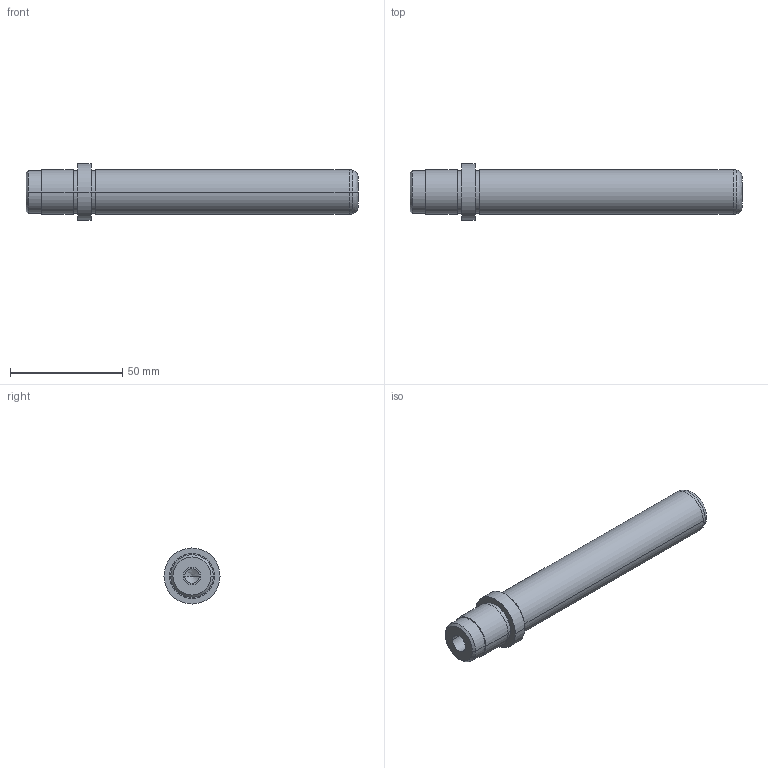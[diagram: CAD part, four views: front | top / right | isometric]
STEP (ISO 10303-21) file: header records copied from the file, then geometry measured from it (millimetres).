
FILE_DESCRIPTION( ( 'STEP AP203' ), '1' );
FILE_NAME( 'D:/Delta 3 D/D00/D00 - 20x125x23.step', '2003-01-02T06:40:52', ( ' ' ), ( ' ' ), 'XStep 1.0', ' ', ' ' );
FILE_SCHEMA( ( 'CONFIG_CONTROL_DESIGN' ) );
Length unit declared in the file: metre
Products named in the file (1): 1
Bounding box: 148 x 25 x 25 mm (x, y, z)
Volume: 44703.2 mm3; surface area: 11520.9 mm2
Topology: 1 solids, 1 shells, 39 faces, 78 edges, 48 vertices
Faces by surface type: revolution 28, bspline 11
Entity records: 1137 total; most frequent: CARTESIAN_POINT 277, DIRECTION 154, ORIENTED_EDGE 152, EDGE_CURVE 76, AXIS2_PLACEMENT_3D 49, EDGE_LOOP 48, VERTEX_POINT 48, CIRCLE 48
